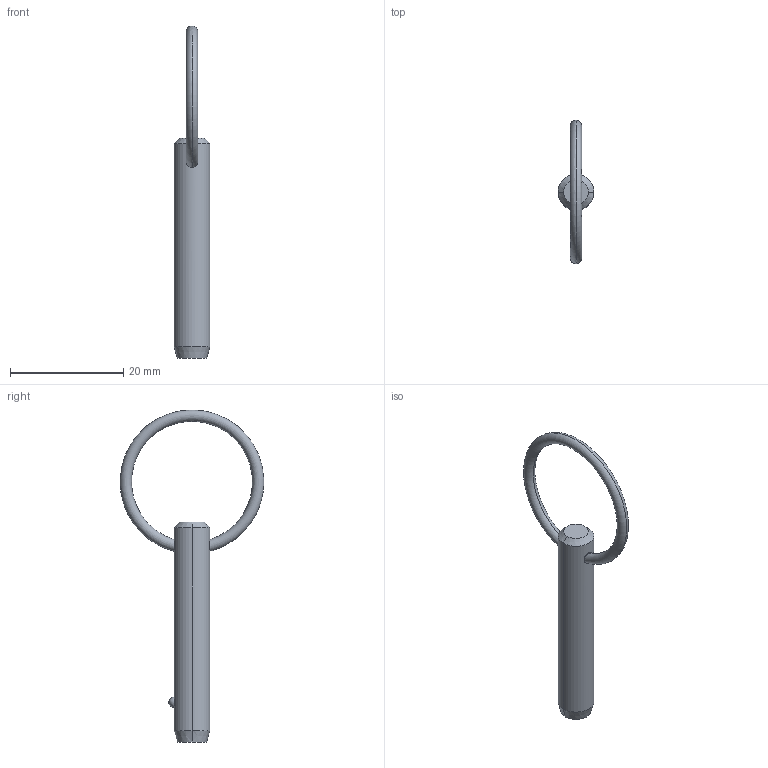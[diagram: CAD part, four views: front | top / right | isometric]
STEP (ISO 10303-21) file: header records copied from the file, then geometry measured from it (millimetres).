
FILE_DESCRIPTION (( 'STEP AP203' ), '1' );
FILE_NAME ('P1250.025-100.step', '2019-07-29T19:39:44', ( '' ), ( '' ), 'SwSTEP 2.0', 'SolidWorks 2017', '' );
FILE_SCHEMA (( 'CONFIG_CONTROL_DESIGN' ));
Length unit declared in the file: millimetre
Products named in the file (1): P1250.025-100
Bounding box: 6.35 x 25.38 x 58.72 mm (x, y, z)
Volume: 1425.6 mm3; surface area: 1233.4 mm2
Topology: 1 solids, 1 shells, 12 faces, 28 edges, 17 vertices
Faces by surface type: cone 4, torus 2, sphere 2, cylinder 2, plane 2
Entity records: 481 total; most frequent: CARTESIAN_POINT 148, DIRECTION 56, ORIENTED_EDGE 48, AXIS2_PLACEMENT_3D 25, EDGE_CURVE 24, EDGE_LOOP 15, VERTEX_POINT 15, ADVANCED_FACE 12
